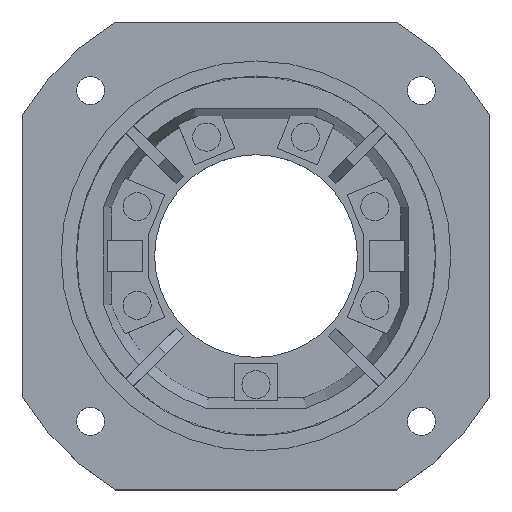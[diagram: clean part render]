
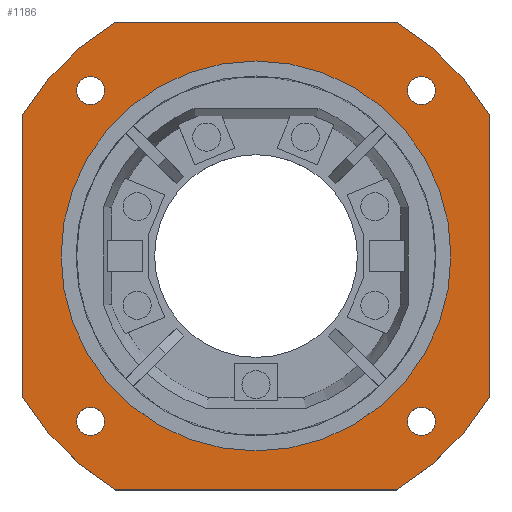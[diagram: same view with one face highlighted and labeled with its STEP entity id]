
A CAD part, top view. The second image highlights one B-rep face of the part: STEP entity #1186.
In plain terms, the highlighted planar face has unit normal (0, 0, 1) as drawn and (1, 0, 0) by its records, which use the part's own axes.
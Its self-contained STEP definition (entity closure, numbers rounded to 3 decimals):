
#1186=ADVANCED_FACE('',(#1383,#1339,#1340,#1341,#1342,#1343),#4087,.T.);
#1339=FACE_BOUND('',#1572,.T.);
#1340=FACE_BOUND('',#1573,.T.);
#1341=FACE_BOUND('',#1574,.T.);
#1342=FACE_BOUND('',#1575,.T.);
#1343=FACE_BOUND('',#1576,.T.);
#1383=FACE_OUTER_BOUND('',#1571,.T.);
#1571=EDGE_LOOP('',(#2058,#2059,#2060,#2061,#2062,#2063,#2064,#2065));
#1572=EDGE_LOOP('',(#2066,#2067));
#1573=EDGE_LOOP('',(#2068,#2069));
#1574=EDGE_LOOP('',(#2070,#2071));
#1575=EDGE_LOOP('',(#2072,#2073));
#1576=EDGE_LOOP('',(#2074,#2075));
#2058=ORIENTED_EDGE('',*,*,#2816,.F.);
#2059=ORIENTED_EDGE('',*,*,#2786,.T.);
#2060=ORIENTED_EDGE('',*,*,#2790,.F.);
#2061=ORIENTED_EDGE('',*,*,#2792,.T.);
#2062=ORIENTED_EDGE('',*,*,#2795,.F.);
#2063=ORIENTED_EDGE('',*,*,#2797,.T.);
#2064=ORIENTED_EDGE('',*,*,#2800,.F.);
#2065=ORIENTED_EDGE('',*,*,#2802,.T.);
#2066=ORIENTED_EDGE('',*,*,#2812,.T.);
#2067=ORIENTED_EDGE('',*,*,#3027,.T.);
#2068=ORIENTED_EDGE('',*,*,#2809,.T.);
#2069=ORIENTED_EDGE('',*,*,#3024,.T.);
#2070=ORIENTED_EDGE('',*,*,#2806,.T.);
#2071=ORIENTED_EDGE('',*,*,#3021,.T.);
#2072=ORIENTED_EDGE('',*,*,#2803,.T.);
#2073=ORIENTED_EDGE('',*,*,#3018,.T.);
#2074=ORIENTED_EDGE('',*,*,#2818,.T.);
#2075=ORIENTED_EDGE('',*,*,#3031,.T.);
#2786=EDGE_CURVE('',#3904,#3903,#3455,.T.);
#2790=EDGE_CURVE('',#3905,#3903,#3184,.T.);
#2792=EDGE_CURVE('',#3905,#3906,#3459,.T.);
#2795=EDGE_CURVE('',#3907,#3906,#3186,.T.);
#2797=EDGE_CURVE('',#3907,#3908,#3462,.T.);
#2800=EDGE_CURVE('',#3909,#3908,#3188,.T.);
#2802=EDGE_CURVE('',#3909,#3910,#3465,.T.);
#2803=EDGE_CURVE('',#3911,#3949,#3189,.T.);
#2806=EDGE_CURVE('',#3912,#3951,#3191,.T.);
#2809=EDGE_CURVE('',#3913,#3953,#3193,.T.);
#2812=EDGE_CURVE('',#3914,#3955,#3195,.T.);
#2816=EDGE_CURVE('',#3904,#3910,#3198,.T.);
#2818=EDGE_CURVE('',#3915,#3957,#3200,.T.);
#3018=EDGE_CURVE('',#3949,#3911,#3219,.T.);
#3021=EDGE_CURVE('',#3951,#3912,#3221,.T.);
#3024=EDGE_CURVE('',#3953,#3913,#3223,.T.);
#3027=EDGE_CURVE('',#3955,#3914,#3225,.T.);
#3031=EDGE_CURVE('',#3957,#3915,#3228,.T.);
#3184=TRIMMED_CURVE($,#3293,(#6019),(#6020),.T.,.CARTESIAN.);
#3186=TRIMMED_CURVE($,#3295,(#6031),(#6032),.T.,.CARTESIAN.);
#3188=TRIMMED_CURVE($,#3297,(#6043),(#6044),.T.,.CARTESIAN.);
#3189=TRIMMED_CURVE($,#3298,(#6050),(#6051),.T.,.CARTESIAN.);
#3191=TRIMMED_CURVE($,#3300,(#6058),(#6059),.T.,.CARTESIAN.);
#3193=TRIMMED_CURVE($,#3302,(#6066),(#6067),.T.,.CARTESIAN.);
#3195=TRIMMED_CURVE($,#3304,(#6074),(#6075),.T.,.CARTESIAN.);
#3198=TRIMMED_CURVE($,#3307,(#6085),(#6086),.T.,.CARTESIAN.);
#3200=TRIMMED_CURVE($,#3309,(#6091),(#6092),.T.,.CARTESIAN.);
#3219=TRIMMED_CURVE($,#3328,(#6606),(#6607),.T.,.CARTESIAN.);
#3221=TRIMMED_CURVE($,#3330,(#6614),(#6615),.T.,.CARTESIAN.);
#3223=TRIMMED_CURVE($,#3332,(#6622),(#6623),.T.,.CARTESIAN.);
#3225=TRIMMED_CURVE($,#3334,(#6630),(#6631),.T.,.CARTESIAN.);
#3228=TRIMMED_CURVE($,#3337,(#6641),(#6642),.T.,.CARTESIAN.);
#3293=CIRCLE('',#4631,175.);
#3295=CIRCLE('',#4633,175.);
#3297=CIRCLE('',#4635,175.);
#3298=CIRCLE('',#4636,9.);
#3300=CIRCLE('',#4638,9.);
#3302=CIRCLE('',#4640,9.);
#3304=CIRCLE('',#4642,9.);
#3307=CIRCLE('',#4645,175.);
#3309=CIRCLE('',#4647,125.);
#3328=CIRCLE('',#4666,9.);
#3330=CIRCLE('',#4668,9.);
#3332=CIRCLE('',#4670,9.);
#3334=CIRCLE('',#4672,9.);
#3337=CIRCLE('',#4675,125.);
#3455=B_SPLINE_CURVE_WITH_KNOTS('',1,(#6009,#6010),.UNSPECIFIED.,.F.,.F.,
(2,2),(-180.278,0.),.UNSPECIFIED.);
#3459=B_SPLINE_CURVE_WITH_KNOTS('',1,(#6023,#6024),.UNSPECIFIED.,.F.,.F.,
(2,2),(-180.278,0.),.UNSPECIFIED.);
#3462=B_SPLINE_CURVE_WITH_KNOTS('',1,(#6035,#6036),.UNSPECIFIED.,.F.,.F.,
(2,2),(-180.278,0.),.UNSPECIFIED.);
#3465=B_SPLINE_CURVE_WITH_KNOTS('',1,(#6047,#6048),.UNSPECIFIED.,.F.,.F.,
(2,2),(-180.278,0.),.UNSPECIFIED.);
#3903=VERTEX_POINT('',#5613);
#3904=VERTEX_POINT('',#5614);
#3905=VERTEX_POINT('',#5615);
#3906=VERTEX_POINT('',#5616);
#3907=VERTEX_POINT('',#5617);
#3908=VERTEX_POINT('',#5618);
#3909=VERTEX_POINT('',#5619);
#3910=VERTEX_POINT('',#5620);
#3911=VERTEX_POINT('',#5621);
#3912=VERTEX_POINT('',#5622);
#3913=VERTEX_POINT('',#5623);
#3914=VERTEX_POINT('',#5624);
#3915=VERTEX_POINT('',#5625);
#3949=VERTEX_POINT('',#5659);
#3951=VERTEX_POINT('',#5661);
#3953=VERTEX_POINT('',#5663);
#3955=VERTEX_POINT('',#5665);
#3957=VERTEX_POINT('',#5667);
#4087=PLANE('',#4490);
#4490=AXIS2_PLACEMENT_3D('',#5307,#4767,$);
#4631=AXIS2_PLACEMENT_3D($,#6018,#4945,#4946);
#4633=AXIS2_PLACEMENT_3D($,#6030,#4949,#4950);
#4635=AXIS2_PLACEMENT_3D($,#6042,#4953,#4954);
#4636=AXIS2_PLACEMENT_3D($,#6049,#4955,#4956);
#4638=AXIS2_PLACEMENT_3D($,#6057,#4959,#4960);
#4640=AXIS2_PLACEMENT_3D($,#6065,#4963,#4964);
#4642=AXIS2_PLACEMENT_3D($,#6073,#4967,#4968);
#4645=AXIS2_PLACEMENT_3D($,#6084,#4973,#4974);
#4647=AXIS2_PLACEMENT_3D($,#6090,#4977,#4978);
#4666=AXIS2_PLACEMENT_3D($,#6605,#5015,#5016);
#4668=AXIS2_PLACEMENT_3D($,#6613,#5019,#5020);
#4670=AXIS2_PLACEMENT_3D($,#6621,#5023,#5024);
#4672=AXIS2_PLACEMENT_3D($,#6629,#5027,#5028);
#4675=AXIS2_PLACEMENT_3D($,#6640,#5033,#5034);
#4767=DIRECTION('',(1.,0.,0.));
#4945=DIRECTION('',(-1.,0.,0.));
#4946=DIRECTION('',(0.,-0.857,0.515));
#4949=DIRECTION('',(-1.,0.,0.));
#4950=DIRECTION('',(0.,-0.515,-0.857));
#4953=DIRECTION('',(-1.,0.,0.));
#4954=DIRECTION('',(0.,0.857,-0.515));
#4955=DIRECTION('',(-1.,0.,0.));
#4956=DIRECTION('',(0.,0.,-1.));
#4959=DIRECTION('',(-1.,0.,0.));
#4960=DIRECTION('',(0.,0.,-1.));
#4963=DIRECTION('',(-1.,0.,0.));
#4964=DIRECTION('',(0.,0.,-1.));
#4967=DIRECTION('',(-1.,0.,0.));
#4968=DIRECTION('',(0.,0.,-1.));
#4973=DIRECTION('',(-1.,0.,0.));
#4974=DIRECTION('',(0.,0.515,0.857));
#4977=DIRECTION('',(-1.,0.,0.));
#4978=DIRECTION('',(0.,0.,-1.));
#5015=DIRECTION('',(-1.,0.,0.));
#5016=DIRECTION('',(0.,0.,1.));
#5019=DIRECTION('',(-1.,0.,0.));
#5020=DIRECTION('',(0.,0.,1.));
#5023=DIRECTION('',(-1.,0.,0.));
#5024=DIRECTION('',(0.,0.,1.));
#5027=DIRECTION('',(-1.,0.,0.));
#5028=DIRECTION('',(0.,0.,1.));
#5033=DIRECTION('',(-1.,0.,0.));
#5034=DIRECTION('',(0.,0.,1.));
#5307=CARTESIAN_POINT('',(40.,-180.06,180.06));
#5613=CARTESIAN_POINT('',(40.,-90.139,150.));
#5614=CARTESIAN_POINT('',(40.,90.139,150.));
#5615=CARTESIAN_POINT('',(40.,-150.,90.139));
#5616=CARTESIAN_POINT('',(40.,-150.,-90.139));
#5617=CARTESIAN_POINT('',(40.,-90.139,-150.));
#5618=CARTESIAN_POINT('',(40.,90.139,-150.));
#5619=CARTESIAN_POINT('',(40.,150.,-90.139));
#5620=CARTESIAN_POINT('',(40.,150.,90.139));
#5621=CARTESIAN_POINT('',(40.,-106.066,-115.066));
#5622=CARTESIAN_POINT('',(40.,106.066,-115.066));
#5623=CARTESIAN_POINT('',(40.,106.066,97.066));
#5624=CARTESIAN_POINT('',(40.,-106.066,97.066));
#5625=CARTESIAN_POINT('',(40.,0.,-125.));
#5659=CARTESIAN_POINT('',(40.,-106.066,-97.066));
#5661=CARTESIAN_POINT('',(40.,106.066,-97.066));
#5663=CARTESIAN_POINT('',(40.,106.066,115.066));
#5665=CARTESIAN_POINT('',(40.,-106.066,115.066));
#5667=CARTESIAN_POINT('',(40.,0.,125.));
#6009=CARTESIAN_POINT('',(40.,90.139,150.));
#6010=CARTESIAN_POINT('',(40.,-90.139,150.));
#6018=CARTESIAN_POINT('',(40.,0.,0.));
#6019=CARTESIAN_POINT('',(40.,-150.,90.139));
#6020=CARTESIAN_POINT('',(40.,-90.139,150.));
#6023=CARTESIAN_POINT('',(40.,-150.,90.139));
#6024=CARTESIAN_POINT('',(40.,-150.,-90.139));
#6030=CARTESIAN_POINT('',(40.,0.,0.));
#6031=CARTESIAN_POINT('',(40.,-90.139,-150.));
#6032=CARTESIAN_POINT('',(40.,-150.,-90.139));
#6035=CARTESIAN_POINT('',(40.,-90.139,-150.));
#6036=CARTESIAN_POINT('',(40.,90.139,-150.));
#6042=CARTESIAN_POINT('',(40.,0.,0.));
#6043=CARTESIAN_POINT('',(40.,150.,-90.139));
#6044=CARTESIAN_POINT('',(40.,90.139,-150.));
#6047=CARTESIAN_POINT('',(40.,150.,-90.139));
#6048=CARTESIAN_POINT('',(40.,150.,90.139));
#6049=CARTESIAN_POINT('',(40.,-106.066,-106.066));
#6050=CARTESIAN_POINT('',(40.,-106.066,-115.066));
#6051=CARTESIAN_POINT('',(40.,-106.066,-97.066));
#6057=CARTESIAN_POINT('',(40.,106.066,-106.066));
#6058=CARTESIAN_POINT('',(40.,106.066,-115.066));
#6059=CARTESIAN_POINT('',(40.,106.066,-97.066));
#6065=CARTESIAN_POINT('',(40.,106.066,106.066));
#6066=CARTESIAN_POINT('',(40.,106.066,97.066));
#6067=CARTESIAN_POINT('',(40.,106.066,115.066));
#6073=CARTESIAN_POINT('',(40.,-106.066,106.066));
#6074=CARTESIAN_POINT('',(40.,-106.066,97.066));
#6075=CARTESIAN_POINT('',(40.,-106.066,115.066));
#6084=CARTESIAN_POINT('',(40.,0.,0.));
#6085=CARTESIAN_POINT('',(40.,90.139,150.));
#6086=CARTESIAN_POINT('',(40.,150.,90.139));
#6090=CARTESIAN_POINT('',(40.,0.,0.));
#6091=CARTESIAN_POINT('',(40.,0.,-125.));
#6092=CARTESIAN_POINT('',(40.,0.,125.));
#6605=CARTESIAN_POINT('',(40.,-106.066,-106.066));
#6606=CARTESIAN_POINT('',(40.,-106.066,-97.066));
#6607=CARTESIAN_POINT('',(40.,-106.066,-115.066));
#6613=CARTESIAN_POINT('',(40.,106.066,-106.066));
#6614=CARTESIAN_POINT('',(40.,106.066,-97.066));
#6615=CARTESIAN_POINT('',(40.,106.066,-115.066));
#6621=CARTESIAN_POINT('',(40.,106.066,106.066));
#6622=CARTESIAN_POINT('',(40.,106.066,115.066));
#6623=CARTESIAN_POINT('',(40.,106.066,97.066));
#6629=CARTESIAN_POINT('',(40.,-106.066,106.066));
#6630=CARTESIAN_POINT('',(40.,-106.066,115.066));
#6631=CARTESIAN_POINT('',(40.,-106.066,97.066));
#6640=CARTESIAN_POINT('',(40.,0.,0.));
#6641=CARTESIAN_POINT('',(40.,0.,125.));
#6642=CARTESIAN_POINT('',(40.,0.,-125.));
